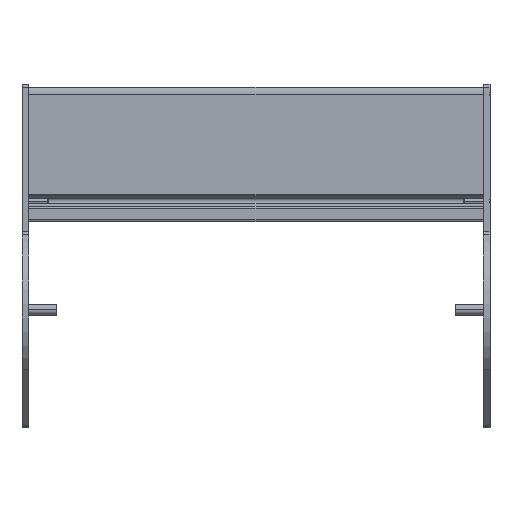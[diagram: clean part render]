
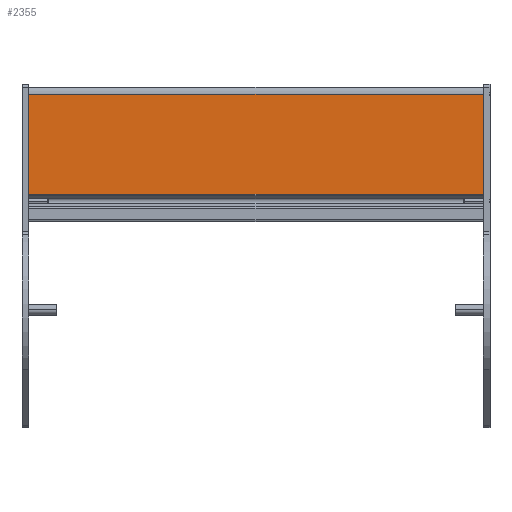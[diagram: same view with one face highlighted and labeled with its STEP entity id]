
A CAD part, top view. The second image highlights one B-rep face of the part: STEP entity #2355.
In plain terms, the highlighted planar face has unit normal (0, 0, 1) as drawn and (1, 0, 0) by its records, which use the part's own axes.
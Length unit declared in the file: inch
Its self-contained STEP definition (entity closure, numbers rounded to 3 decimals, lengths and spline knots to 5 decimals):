
#217=DIRECTION('',(0.,1.,0.));
#218=VECTOR('',#217,1.81445);
#219=CARTESIAN_POINT('',(0.683,-0.84545,-4.118));
#220=LINE('',#219,#218);
#343=DIRECTION('',(0.,1.,0.));
#344=VECTOR('',#343,1.81445);
#345=CARTESIAN_POINT('',(0.683,-0.84545,4.118));
#346=LINE('',#345,#344);
#674=DIRECTION('',(0.,0.,1.));
#675=VECTOR('',#674,8.236);
#676=CARTESIAN_POINT('',(0.683,0.969,-4.118));
#677=LINE('',#676,#675);
#687=DIRECTION('',(0.,0.,-1.));
#688=VECTOR('',#687,8.236);
#689=CARTESIAN_POINT('',(0.683,-0.84545,4.118));
#690=LINE('',#689,#688);
#1298=CARTESIAN_POINT('',(0.683,-0.84545,-4.118));
#1299=CARTESIAN_POINT('',(0.683,0.969,-4.118));
#1300=VERTEX_POINT('',#1298);
#1301=VERTEX_POINT('',#1299);
#1302=CARTESIAN_POINT('',(0.683,-0.84545,4.118));
#1303=CARTESIAN_POINT('',(0.683,0.969,4.118));
#1304=VERTEX_POINT('',#1302);
#1305=VERTEX_POINT('',#1303);
#2343=CARTESIAN_POINT('',(0.683,-0.86334,-4.118));
#2344=DIRECTION('',(1.,0.,0.));
#2345=DIRECTION('',(0.,1.,0.));
#2346=AXIS2_PLACEMENT_3D('',#2343,#2344,#2345);
#2347=PLANE('',#2346);
#2348=ORIENTED_EDGE('',*,*,#1667,.F.);
#2350=ORIENTED_EDGE('',*,*,#2349,.F.);
#2351=ORIENTED_EDGE('',*,*,#1774,.T.);
#2352=ORIENTED_EDGE('',*,*,#2336,.F.);
#2353=EDGE_LOOP('',(#2348,#2350,#2351,#2352));
#2354=FACE_OUTER_BOUND('',#2353,.F.);
#1667=EDGE_CURVE('',#1300,#1301,#220,.T.);
#1774=EDGE_CURVE('',#1304,#1305,#346,.T.);
#2336=EDGE_CURVE('',#1301,#1305,#677,.T.);
#2349=EDGE_CURVE('',#1304,#1300,#690,.T.);
#2355=ADVANCED_FACE('',(#2354),#2347,.T.);
